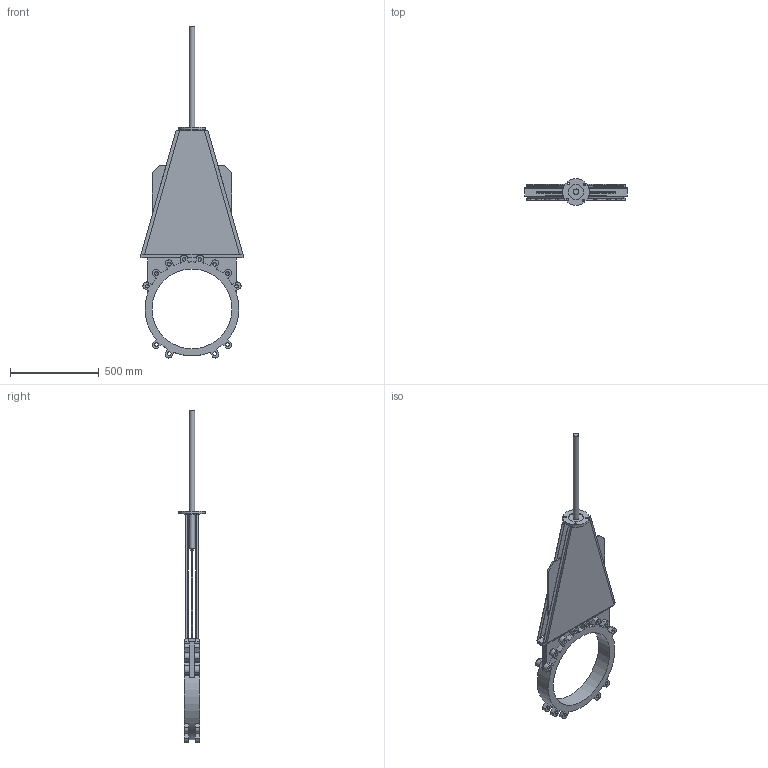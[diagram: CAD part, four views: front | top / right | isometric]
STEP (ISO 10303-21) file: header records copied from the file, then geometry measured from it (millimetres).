
FILE_DESCRIPTION(('STEP AP203'), '1');
FILE_NAME('K21GVA_DN450', '', ('UNSPECIFIED'), ('UNSPECIFIED'), 'ASCON STEP Converter 1.6', 'ASCON Math Kernel', '');
FILE_SCHEMA(('CONFIG_CONTROL_DESIGN'));
Length unit declared in the file: millimetre
Bounding box: 575 x 150 x 1871.44 mm (x, y, z)
Volume: 12026428.2 mm3; surface area: 2324148.7 mm2
Topology: 1 solids, 1 shells, 289 faces, 820 edges, 533 vertices
Faces by surface type: plane 156, cylinder 116, cone 17
Full cylindrical faces by diameter (mm): 14 x4, 20.752 x24, 32 x2, 80 x1, 85 x1, 150 x1, 450 x1
Entity records: 11528 total; most frequent: CARTESIAN_POINT 1676, DIRECTION 1600, ORIENTED_EDGE 1506, EDGE_CURVE 753, AXIS2_PLACEMENT_3D 559, VERTEX_POINT 517, LINE 482, VECTOR 482
